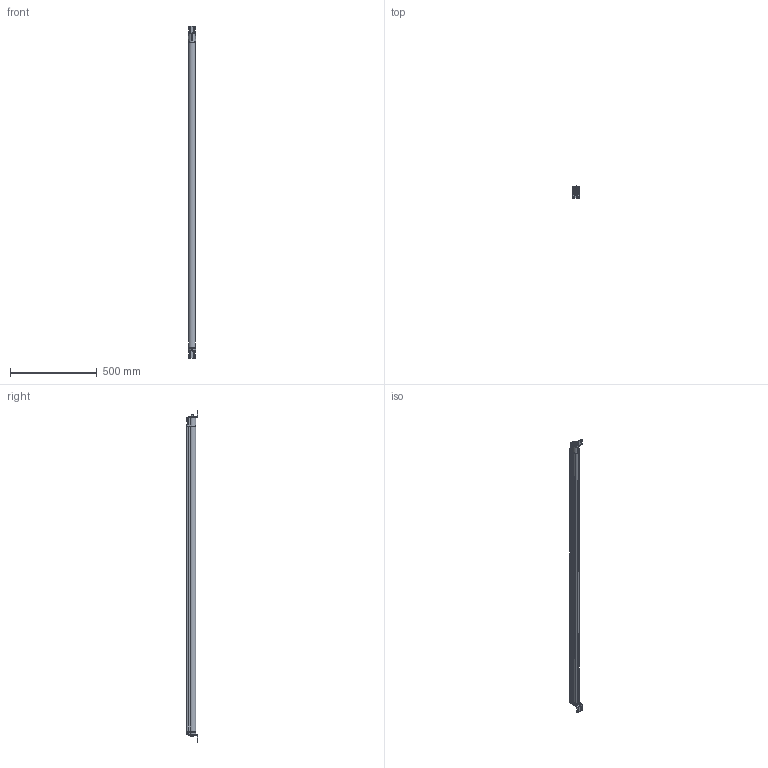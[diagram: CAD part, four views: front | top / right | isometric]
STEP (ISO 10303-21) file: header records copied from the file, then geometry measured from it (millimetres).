
FILE_DESCRIPTION((''),'2;1');
FILE_NAME('440L-G4J1280YD_SW0002','2024-07-25T13:39:00',('AKhan24'),('Rockwell Automation'),'CREO PARAMETRIC BY PTC INC, 2022424','CREO PARAMETRIC BY PTC INC, 2022424','');
FILE_SCHEMA(('AUTOMOTIVE_DESIGN { 1 0 10303 214 1 1 1 1 }'));
Products named in the file (1): 440L-G4J1280YD_SW0002
Bounding box: 42.01 x 66.8 x 1912 mm (x, y, z)
Volume: 850219.1 mm3; surface area: 756175.3 mm2
Topology: 1 solids, 1 shells, 1868 faces, 4817 edges, 3034 vertices
Faces by surface type: plane 708, cylinder 613, torus 222, cone 197, bspline 80, sphere 48
Entity records: 107042 total; most frequent: CARTESIAN_POINT 33268, DIRECTION 9990, ORIENTED_EDGE 9630, PRESENTATION_STYLE_ASSIGNMENT 6684, STYLED_ITEM 4816, CURVE_STYLE 4815, EDGE_CURVE 4815, AXIS2_PLACEMENT_3D 3925
